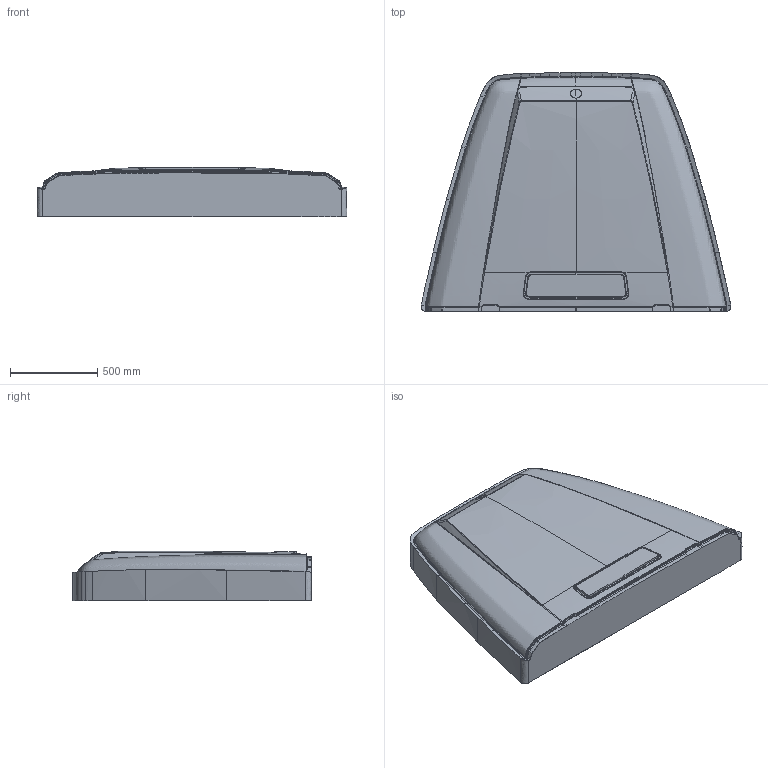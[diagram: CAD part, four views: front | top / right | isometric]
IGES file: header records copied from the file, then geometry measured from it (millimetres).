
Start section: This file is generated by Geomagic Design X(3D Systems, Inc.).
Global section: file name: mecanizado.igs; native system: Spatial Corp.; preprocessor: 3D InterOp GENERIC/IGES 3.0; author: Noname; organization: Noname; date: 20190907.114255; units: millimetre
Bounding box: 1776.4 x 1368.01 x 285.32 mm (x, y, z)
Surface area: 5210015.7 mm2 (no closed solid volume)
Topology: 0 solids, 0 shells, 399 faces, 3563 edges, 3553 vertices
Faces by surface type: bspline 399
